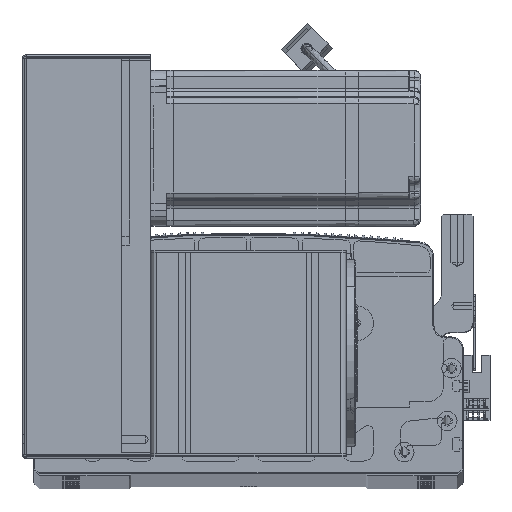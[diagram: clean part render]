
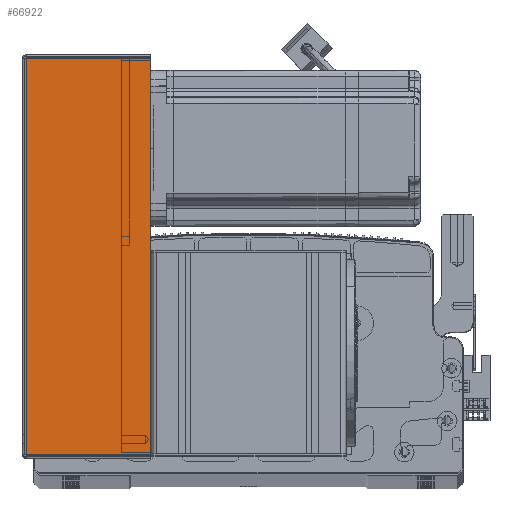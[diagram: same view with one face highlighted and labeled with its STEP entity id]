
A CAD part, top view. The second image highlights one B-rep face of the part: STEP entity #66922.
In plain terms, the highlighted planar face has unit normal (0, 0, 1) as drawn and (0, 1, 0) by its records, which use the part's own axes.
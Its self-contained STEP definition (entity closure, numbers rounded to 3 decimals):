
#684 = ORIENTED_EDGE ( 'NONE', *, *, #68063, .T. ) ;
#2368 = CARTESIAN_POINT ( 'NONE',  ( 64.5, 107.5, -0.707 ) ) ;
#2491 = DIRECTION ( 'NONE',  ( 1., 0., 0. ) ) ;
#3980 = LINE ( 'NONE', #101353, #88729 ) ;
#6604 = EDGE_CURVE ( 'NONE', #93442, #95676, #3980, .T. ) ;
#13057 = AXIS2_PLACEMENT_3D ( 'NONE', #104571, #48772, #97423 ) ;
#14847 = CARTESIAN_POINT ( 'NONE',  ( 64.5, 107.5, -204. ) ) ;
#15734 = ORIENTED_EDGE ( 'NONE', *, *, #6604, .F. ) ;
#22826 = FACE_OUTER_BOUND ( 'NONE', #90459, .T. ) ;
#29109 = EDGE_CURVE ( 'NONE', #97880, #93442, #69376, .T. ) ;
#30139 = CARTESIAN_POINT ( 'NONE',  ( 0.737, 107.5, 0. ) ) ;
#30212 = EDGE_CURVE ( 'NONE', #41566, #95676, #77939, .T. ) ;
#31547 = ORIENTED_EDGE ( 'NONE', *, *, #29109, .F. ) ;
#35034 = CARTESIAN_POINT ( 'NONE',  ( 0.737, 107.5, -203.293 ) ) ;
#40627 = PLANE ( 'NONE',  #13057 ) ;
#41566 = VERTEX_POINT ( 'NONE', #2368 ) ;
#44237 = LINE ( 'NONE', #91529, #77116 ) ;
#48094 = DIRECTION ( 'NONE',  ( 0., 0., -1. ) ) ;
#48772 = DIRECTION ( 'NONE',  ( 0., -1., 0. ) ) ;
#60730 = CARTESIAN_POINT ( 'NONE',  ( 0.737, 107.5, -0.707 ) ) ;
#66922 = ADVANCED_FACE ( 'NONE', ( #22826 ), #40627, .F. ) ;
#68063 = EDGE_CURVE ( 'NONE', #97880, #41566, #44237, .T. ) ;
#69376 = LINE ( 'NONE', #30139, #74420 ) ;
#74420 = VECTOR ( 'NONE', #103607, 1000. ) ;
#74576 = CARTESIAN_POINT ( 'NONE',  ( 64.5, 107.5, -203.293 ) ) ;
#77116 = VECTOR ( 'NONE', #2491, 1000. ) ;
#77939 = LINE ( 'NONE', #14847, #85500 ) ;
#79425 = ORIENTED_EDGE ( 'NONE', *, *, #30212, .T. ) ;
#85500 = VECTOR ( 'NONE', #48094, 1000. ) ;
#88729 = VECTOR ( 'NONE', #93558, 1000. ) ;
#90459 = EDGE_LOOP ( 'NONE', ( #31547, #684, #79425, #15734 ) ) ;
#91529 = CARTESIAN_POINT ( 'NONE',  ( 0., 107.5, -0.707 ) ) ;
#93442 = VERTEX_POINT ( 'NONE', #35034 ) ;
#93558 = DIRECTION ( 'NONE',  ( 1., 0., 0. ) ) ;
#95676 = VERTEX_POINT ( 'NONE', #74576 ) ;
#97423 = DIRECTION ( 'NONE',  ( 1., 0., 0. ) ) ;
#97880 = VERTEX_POINT ( 'NONE', #60730 ) ;
#101353 = CARTESIAN_POINT ( 'NONE',  ( 0., 107.5, -203.293 ) ) ;
#103607 = DIRECTION ( 'NONE',  ( 0., 0., -1. ) ) ;
#104571 = CARTESIAN_POINT ( 'NONE',  ( 0., 107.5, 0. ) ) ;
